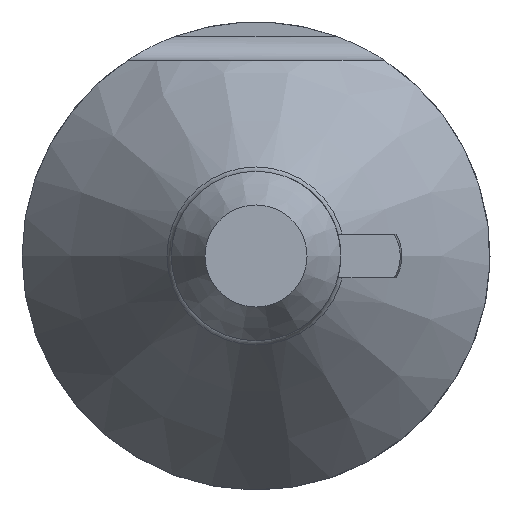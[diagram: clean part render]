
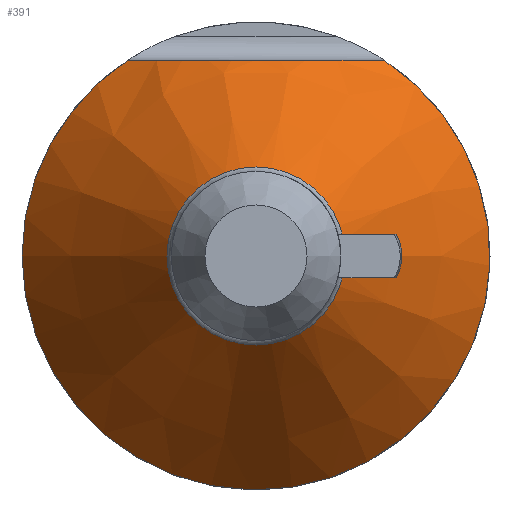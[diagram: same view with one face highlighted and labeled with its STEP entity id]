
A CAD part, front view. The second image highlights one B-rep face of the part: STEP entity #391.
In plain terms, the highlighted conical face has half-angle 35 degrees and reference radius 2.761 mm.
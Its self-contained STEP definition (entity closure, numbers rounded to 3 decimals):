
#14=CONICAL_SURFACE('',#448,2.761,0.611);
#17=(
BOUNDED_CURVE()
B_SPLINE_CURVE(2,(#699,#700,#701),.UNSPECIFIED.,.F.,.F.)
B_SPLINE_CURVE_WITH_KNOTS((3,3),(0.,0.475),.UNSPECIFIED.)
CURVE()
GEOMETRIC_REPRESENTATION_ITEM()
RATIONAL_B_SPLINE_CURVE((1.,1.194,1.))
REPRESENTATION_ITEM('')
);
#46=FACE_OUTER_BOUND('',#69,.T.);
#69=EDGE_LOOP('',(#298,#299,#300,#301,#302,#303,#304));
#101=LINE('',#737,#124);
#124=VECTOR('',#543,2.761);
#140=CIRCLE('',#449,1.522);
#141=CIRCLE('',#450,4.);
#142=CIRCLE('',#451,4.);
#143=CIRCLE('',#452,1.522);
#172=VERTEX_POINT('',#693);
#174=VERTEX_POINT('',#697);
#177=VERTEX_POINT('',#733);
#178=VERTEX_POINT('',#734);
#179=VERTEX_POINT('',#736);
#218=EDGE_CURVE('',#172,#174,#17,.T.);
#223=EDGE_CURVE('',#177,#178,#140,.T.);
#224=EDGE_CURVE('',#177,#179,#101,.T.);
#225=EDGE_CURVE('',#179,#172,#141,.T.);
#226=EDGE_CURVE('',#174,#179,#142,.T.);
#227=EDGE_CURVE('',#178,#177,#143,.T.);
#298=ORIENTED_EDGE('',*,*,#223,.F.);
#299=ORIENTED_EDGE('',*,*,#224,.T.);
#300=ORIENTED_EDGE('',*,*,#225,.T.);
#301=ORIENTED_EDGE('',*,*,#218,.T.);
#302=ORIENTED_EDGE('',*,*,#226,.T.);
#303=ORIENTED_EDGE('',*,*,#224,.F.);
#304=ORIENTED_EDGE('',*,*,#227,.F.);
#391=ADVANCED_FACE('',(#46),#14,.T.);
#448=AXIS2_PLACEMENT_3D('',#732,#539,#540);
#449=AXIS2_PLACEMENT_3D('',#735,#541,#542);
#450=AXIS2_PLACEMENT_3D('',#738,#544,#545);
#451=AXIS2_PLACEMENT_3D('',#739,#546,#547);
#452=AXIS2_PLACEMENT_3D('',#740,#548,#549);
#539=DIRECTION('center_axis',(0.,1.,0.));
#540=DIRECTION('ref_axis',(1.,0.,0.));
#541=DIRECTION('center_axis',(0.,-1.,0.));
#542=DIRECTION('ref_axis',(1.,0.,0.));
#543=DIRECTION('',(-0.574,0.819,0.));
#544=DIRECTION('center_axis',(0.,-1.,0.));
#545=DIRECTION('ref_axis',(1.,0.,0.));
#546=DIRECTION('center_axis',(0.,-1.,0.));
#547=DIRECTION('ref_axis',(1.,0.,0.));
#548=DIRECTION('center_axis',(0.,-1.,0.));
#549=DIRECTION('ref_axis',(1.,0.,0.));
#693=CARTESIAN_POINT('',(2.186,32.768,3.35));
#697=CARTESIAN_POINT('',(-2.186,32.768,3.35));
#699=CARTESIAN_POINT('Ctrl Pts',(2.186,32.768,3.35));
#700=CARTESIAN_POINT('Ctrl Pts',(0.,31.062,3.35));
#701=CARTESIAN_POINT('Ctrl Pts',(-2.186,32.768,3.35));
#732=CARTESIAN_POINT('Origin',(0.,30.999,0.));
#733=CARTESIAN_POINT('',(-1.522,29.229,0.));
#734=CARTESIAN_POINT('',(0.,29.229,1.522));
#735=CARTESIAN_POINT('Origin',(0.,29.229,0.));
#736=CARTESIAN_POINT('',(-4.,32.768,0.));
#737=CARTESIAN_POINT('',(-2.761,30.999,0.));
#738=CARTESIAN_POINT('Origin',(0.,32.768,0.));
#739=CARTESIAN_POINT('Origin',(0.,32.768,0.));
#740=CARTESIAN_POINT('Origin',(0.,29.229,0.));
